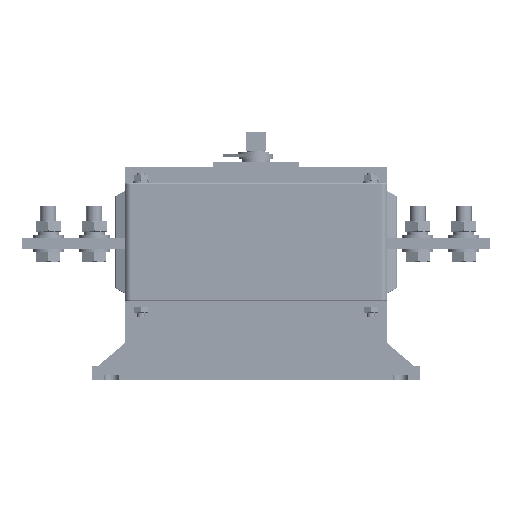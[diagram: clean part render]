
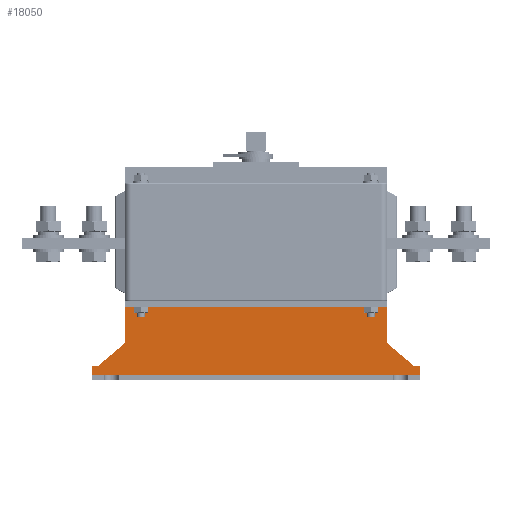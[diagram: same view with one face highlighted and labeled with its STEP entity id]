
A CAD part, left-side view. The second image highlights one B-rep face of the part: STEP entity #18050.
In plain terms, the highlighted planar face has unit normal (-1, 0, 0) as drawn and (0, 0, 1) by its records, which use the part's own axes.
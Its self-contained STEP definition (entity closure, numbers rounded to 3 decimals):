
#17533=DIRECTION('',(0.,-1.,0.));
#17534=VECTOR('',#17533,7.);
#17535=CARTESIAN_POINT('',(-125.,11.,-11.));
#17536=LINE('',#17535,#17534);
#17541=DIRECTION('',(-1.,0.,0.));
#17542=VECTOR('',#17541,5.);
#17543=CARTESIAN_POINT('',(-120.,11.,-11.));
#17544=LINE('',#17543,#17542);
#17549=DIRECTION('',(1.,0.,0.));
#17550=VECTOR('',#17549,200.);
#17551=CARTESIAN_POINT('',(-100.,56.,-11.));
#17552=LINE('',#17551,#17550);
#17566=DIRECTION('',(0.,-1.,0.));
#17567=VECTOR('',#17566,7.);
#17568=CARTESIAN_POINT('',(125.,11.,-11.));
#17569=LINE('',#17568,#17567);
#17697=DIRECTION('',(0.,1.,0.));
#17698=VECTOR('',#17697,28.);
#17699=CARTESIAN_POINT('',(100.,28.,-11.));
#17700=LINE('',#17699,#17698);
#17762=DIRECTION('',(0.,1.,0.));
#17763=VECTOR('',#17762,28.);
#17764=CARTESIAN_POINT('',(-100.,28.,-11.));
#17765=LINE('',#17764,#17763);
#17766=DIRECTION('',(-0.762,-0.648,0.));
#17767=VECTOR('',#17766,26.249);
#17768=CARTESIAN_POINT('',(-100.,28.,-11.));
#17769=LINE('',#17768,#17767);
#17774=DIRECTION('',(-0.762,0.648,0.));
#17775=VECTOR('',#17774,26.249);
#17776=CARTESIAN_POINT('',(120.,11.,-11.));
#17777=LINE('',#17776,#17775);
#17782=DIRECTION('',(-1.,0.,0.));
#17783=VECTOR('',#17782,5.);
#17784=CARTESIAN_POINT('',(125.,11.,-11.));
#17785=LINE('',#17784,#17783);
#17816=DIRECTION('',(1.,0.,0.));
#17817=VECTOR('',#17816,250.);
#17818=CARTESIAN_POINT('',(-125.,4.,-11.));
#17819=LINE('',#17818,#17817);
#17857=CARTESIAN_POINT('',(125.,4.,-11.));
#17859=VERTEX_POINT('',#17857);
#17860=CARTESIAN_POINT('',(125.,11.,-11.));
#17861=VERTEX_POINT('',#17860);
#17862=CARTESIAN_POINT('',(120.,11.,-11.));
#17863=VERTEX_POINT('',#17862);
#17864=CARTESIAN_POINT('',(100.,28.,-11.));
#17865=VERTEX_POINT('',#17864);
#17866=CARTESIAN_POINT('',(100.,56.,-11.));
#17867=VERTEX_POINT('',#17866);
#17868=CARTESIAN_POINT('',(-100.,56.,-11.));
#17869=VERTEX_POINT('',#17868);
#17870=CARTESIAN_POINT('',(-100.,28.,-11.));
#17871=VERTEX_POINT('',#17870);
#17872=CARTESIAN_POINT('',(-120.,11.,-11.));
#17873=VERTEX_POINT('',#17872);
#17874=CARTESIAN_POINT('',(-125.,11.,-11.));
#17875=VERTEX_POINT('',#17874);
#17877=CARTESIAN_POINT('',(-125.,4.,-11.));
#17879=VERTEX_POINT('',#17877);
#18025=CARTESIAN_POINT('',(-125.,56.,-11.));
#18026=DIRECTION('',(0.,0.,-1.));
#18027=DIRECTION('',(0.,-1.,0.));
#18028=AXIS2_PLACEMENT_3D('',#18025,#18026,#18027);
#18029=PLANE('',#18028);
#18031=ORIENTED_EDGE('',*,*,#18030,.T.);
#18033=ORIENTED_EDGE('',*,*,#18032,.F.);
#18034=ORIENTED_EDGE('',*,*,#18000,.F.);
#18035=ORIENTED_EDGE('',*,*,#18016,.F.);
#18037=ORIENTED_EDGE('',*,*,#18036,.F.);
#18039=ORIENTED_EDGE('',*,*,#18038,.T.);
#18041=ORIENTED_EDGE('',*,*,#18040,.T.);
#18043=ORIENTED_EDGE('',*,*,#18042,.F.);
#18045=ORIENTED_EDGE('',*,*,#18044,.F.);
#18047=ORIENTED_EDGE('',*,*,#18046,.F.);
#18048=EDGE_LOOP('',(#18031,#18033,#18034,#18035,#18037,#18039,#18041,#18043,
#18045,#18047));
#18049=FACE_OUTER_BOUND('',#18048,.F.);
#18050=ADVANCED_FACE('',(#18049),#18029,.F.);
#18000=EDGE_CURVE('',#17875,#17879,#17536,.T.);
#18016=EDGE_CURVE('',#17873,#17875,#17544,.T.);
#18030=EDGE_CURVE('',#17861,#17859,#17569,.T.);
#18032=EDGE_CURVE('',#17879,#17859,#17819,.T.);
#18036=EDGE_CURVE('',#17871,#17873,#17769,.T.);
#18038=EDGE_CURVE('',#17871,#17869,#17765,.T.);
#18040=EDGE_CURVE('',#17869,#17867,#17552,.T.);
#18042=EDGE_CURVE('',#17865,#17867,#17700,.T.);
#18044=EDGE_CURVE('',#17863,#17865,#17777,.T.);
#18046=EDGE_CURVE('',#17861,#17863,#17785,.T.);
